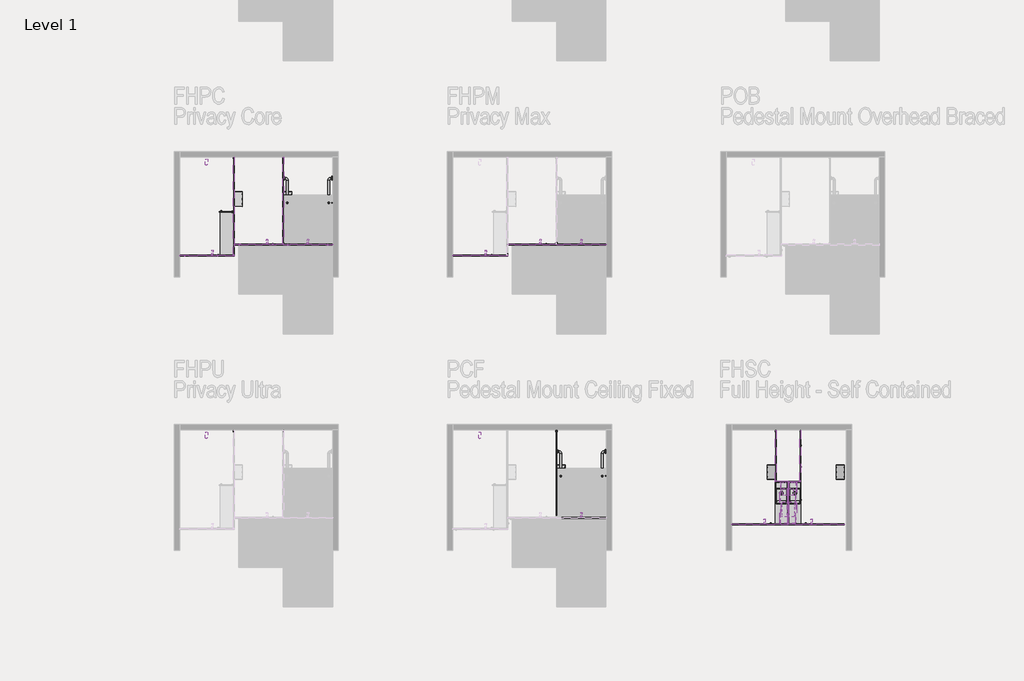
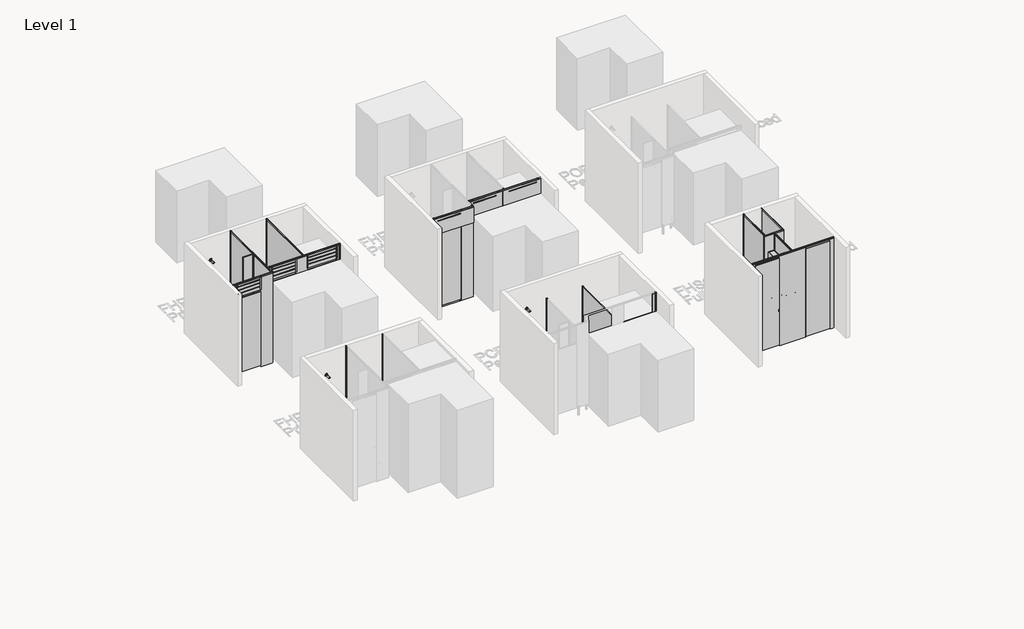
# One storey, part 2 of 21: 108 furniture elements, 13 proxies, 5 flow terminals.
"""IFC4 building model written with IfcOpenShell, lengths in millimetres."""

from ifc_helpers import new_model, si_unit, origin, place, context, project, spatial, transform, mapped, element, save
from components import grab_rail_angled_generic_variable_c761e824, grab_rail_angled_generic_variable_3e2c0b31, standard_bbde8fbd, standard_f0378506, standard_a875b074, standard_1bd56ca6, toilet_paper_dispenser_single_generic_jumbo_roll_standard_5525cc7b, shower_outlet_generic_cylinder_fixed_standard_5790de0d, standard_62b3b199, furniture_50x50x3_ea_30474b0d, single_jumbo_roll_84fdac57, single_jumbo_roll_e7ba397d, standard_9f86a58c, standard_8b35f988, standard_eb0c6a54, standard_7c3ea897, standard_e2e215f3, standard_50133f41, standard_54add324, standard_539b4371, standard_8cc50bd6, standard_2b3127c3, standard_fdf829a3, standard_bae3c756, standard_4d361739, standard_103004a1, standard_78c5e98c, standard_35fc4c4e, standard_598e1934, standard_5f91ae4e, standard_cc6c492e, standard_4e694d97, standard_1b8acc66, standard_bca626b4, standard_b2058483, standard_ade325fc, standard_339cfff9, standard_af441d0e, standard_b7de49b0, standard_4f091022, standard_1f074c20, standard_59bfe1c4, standard_31cafe8a, standard_3d746f33, standard_4055153e, standard_ba3eb68e, standard_246fb630, standard_5e636450, standard_dc7732f7, standard_ce56a993, standard_a54649d3, standard_8169fa8b, standard_a09735d1, standard_67804c96, standard_4ddd5521

model = new_model("IFC4")

# Units and contexts
model_context = context("Model", 3, world=origin())
ifc_project = project(units=[si_unit("LENGTHUNIT", "METRE", prefix="MILLI")], contexts=[model_context])

# Site, building, storey
site = spatial("IfcSite", under=ifc_project)
building = spatial("IfcBuilding", under=site)
storey = spatial("IfcBuildingStorey", under=building, Name="Level 1", Elevation=0.0)

# Proxies
placement = place(None, origin())
grab_rail_angled_generic_variable_shape = grab_rail_angled_generic_variable_c761e824(model_context)
element("IfcBuildingElementProxy", 1, Name="Grab Rail-Angled-Generic-Variable : Ambulant-32Ø 450+450@90°", ObjectType="Grab Rail-Angled-Generic-Variable : Ambulant-32Ø 450+450@90°", at=placement, inside=storey, context=model_context, shape_type="MappedRepresentation", body=[
    mapped(grab_rail_angled_generic_variable_shape, transform((-4235.416652, -561.5342317, 784.0), x_axis=(0.0, 1.0, 0.0), y_axis=(0.0, 0.0, 1.0), z_axis=(1.0, 0.0, 0.0))),
])
element("IfcBuildingElementProxy", 2, Name="Grab Rail-Angled-Generic-Variable : Ambulant-32Ø 450+450@90°", ObjectType="Grab Rail-Angled-Generic-Variable : Ambulant-32Ø 450+450@90°", at=placement, inside=storey, context=model_context, shape_type="MappedRepresentation", body=[
    mapped(grab_rail_angled_generic_variable_shape, transform((-9235.416652, 4438.4657683, 784.0), x_axis=(0.0, 1.0, 0.0), y_axis=(0.0, 0.0, 1.0), z_axis=(1.0, 0.0, 0.0))),
])
grab_rail_angled_generic_variable_2_shape = grab_rail_angled_generic_variable_3e2c0b31(model_context)
element("IfcBuildingElementProxy", 3, Name="Grab Rail-Angled-Generic-Variable : Ambulant-32Ø 450+450@90°", ObjectType="Grab Rail-Angled-Generic-Variable : Ambulant-32Ø 450+450@90°", at=placement, inside=storey, context=model_context, shape_type="MappedRepresentation", body=[
    mapped(grab_rail_angled_generic_variable_2_shape, transform((-3335.416652, -561.5342317, 784.0), x_axis=(0.0, 1.0, 0.0), y_axis=(0.0, 0.0, -1.0), z_axis=(-1.0, 0.0, 0.0))),
])
element("IfcBuildingElementProxy", 4, Name="Grab Rail-Angled-Generic-Variable : Ambulant-32Ø 450+450@90°", ObjectType="Grab Rail-Angled-Generic-Variable : Ambulant-32Ø 450+450@90°", at=placement, inside=storey, context=model_context, shape_type="MappedRepresentation", body=[
    mapped(grab_rail_angled_generic_variable_2_shape, transform((-8335.416652, 4438.4657683, 784.0), x_axis=(0.0, 1.0, 0.0), y_axis=(0.0, 0.0, -1.0), z_axis=(-1.0, 0.0, 0.0))),
])
standard_shape = standard_bbde8fbd(model_context)
element("IfcBuildingElementProxy", 5, Name="X_Paper Towel Dispenser-Wall-Duracube-Mirror Hosted : Standard", ObjectType="X_Paper Towel Dispenser-Wall-Duracube-Mirror Hosted : Standard", at=placement, inside=storey, context=model_context, shape_type="MappedRepresentation", body=[
    mapped(standard_shape, transform((-27.916652, -1395.0342317, 1410.0), x_axis=(0.0, -1.0, 0.0), y_axis=(0.0, 0.0, 1.0), z_axis=(-1.0, 0.0, 0.0))),
])
standard_2_shape = standard_f0378506(model_context)
element("IfcBuildingElementProxy", 6, Name="X_Soap Dispenser-Wall-Duracube-Automatic BMSD : Standard", ObjectType="X_Soap Dispenser-Wall-Duracube-Automatic BMSD : Standard", at=placement, inside=storey, context=model_context, shape_type="MappedRepresentation", body=[
    mapped(standard_2_shape, transform((-27.916652, -1076.5342317, 1402.0), x_axis=(0.0, -1.0, 0.0), y_axis=(0.0, 0.0, 1.0), z_axis=(-1.0, 0.0, 0.0))),
])
standard_3_shape = standard_a875b074(model_context)
element("IfcBuildingElementProxy", 7, Name="X_Soap Dispenser-Wall-Duracube-Automatic BMSD : Standard", ObjectType="X_Soap Dispenser-Wall-Duracube-Automatic BMSD : Standard", at=placement, inside=storey, context=model_context, shape_type="MappedRepresentation", body=[
    mapped(standard_3_shape, transform((17.083348, -1076.5342317, 1402.0), x_axis=(0.0, -1.0, 0.0), y_axis=(0.0, 0.0, -1.0), z_axis=(1.0, 0.0, 0.0))),
])
standard_4_shape = standard_1bd56ca6(model_context)
element("IfcBuildingElementProxy", 8, Name="X_Paper Towel Dispenser-Wall-Duracube-Mirror Hosted : Standard", ObjectType="X_Paper Towel Dispenser-Wall-Duracube-Mirror Hosted : Standard", at=placement, inside=storey, context=model_context, shape_type="MappedRepresentation", body=[
    mapped(standard_4_shape, transform((17.083348, -1395.0342317, 1410.0), x_axis=(0.0, -1.0, 0.0), y_axis=(0.0, 0.0, -1.0), z_axis=(1.0, 0.0, 0.0))),
])
toilet_paper_dispenser_single_generic_jumbo_roll_standard_shape = toilet_paper_dispenser_single_generic_jumbo_roll_standard_5525cc7b(model_context)
element("IfcBuildingElementProxy", 9, Name="Toilet Paper Dispenser-Single-Generic-Jumbo Roll : Standard", ObjectType="Toilet Paper Dispenser-Single-Generic-Jumbo Roll : Standard", at=placement, inside=storey, context=model_context, shape_type="MappedRepresentation", body=[
    mapped(toilet_paper_dispenser_single_generic_jumbo_roll_standard_shape, transform((-4235.416652, -715.5342317, 561.5), x_axis=(0.0, 1.0000000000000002, 0.0), y_axis=(0.0, 0.0, 1.0), z_axis=(1.0000000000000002, 0.0, 0.0))),
])
element("IfcBuildingElementProxy", 10, Name="Toilet Paper Dispenser-Single-Generic-Jumbo Roll : Standard", ObjectType="Toilet Paper Dispenser-Single-Generic-Jumbo Roll : Standard", at=placement, inside=storey, context=model_context, shape_type="MappedRepresentation", body=[
    mapped(toilet_paper_dispenser_single_generic_jumbo_roll_standard_shape, transform((-10135.416652, 4284.4657683, 561.5), x_axis=(0.0, 1.0000000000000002, 0.0), y_axis=(0.0, 0.0, 1.0), z_axis=(1.0000000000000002, 0.0, 0.0))),
])
element("IfcBuildingElementProxy", 11, Name="Toilet Paper Dispenser-Single-Generic-Jumbo Roll : Standard", ObjectType="Toilet Paper Dispenser-Single-Generic-Jumbo Roll : Standard", at=placement, inside=storey, context=model_context, shape_type="MappedRepresentation", body=[
    mapped(toilet_paper_dispenser_single_generic_jumbo_roll_standard_shape, transform((-9235.416652, 4284.4657683, 561.5), x_axis=(0.0, 1.0000000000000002, 0.0), y_axis=(0.0, 0.0, 1.0), z_axis=(1.0000000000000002, 0.0, 0.0))),
])
element("IfcBuildingElementProxy", 12, Name="Toilet Paper Dispenser-Single-Generic-Jumbo Roll : Standard", ObjectType="Toilet Paper Dispenser-Single-Generic-Jumbo Roll : Standard", at=placement, inside=storey, context=model_context, shape_type="MappedRepresentation", body=[
    mapped(toilet_paper_dispenser_single_generic_jumbo_roll_standard_shape, transform((-235.416652, -715.5342317, 561.5), x_axis=(0.0, -1.0, 0.0), y_axis=(0.0, 0.0, 1.0), z_axis=(-1.0, 0.0, 0.0))),
])
element("IfcBuildingElementProxy", 13, Name="Toilet Paper Dispenser-Single-Generic-Jumbo Roll : Standard", ObjectType="Toilet Paper Dispenser-Single-Generic-Jumbo Roll : Standard", at=placement, inside=storey, context=model_context, shape_type="MappedRepresentation", body=[
    mapped(toilet_paper_dispenser_single_generic_jumbo_roll_standard_shape, transform((1024.583348, -715.5342317, 561.5), x_axis=(0.0, -1.0, 0.0), y_axis=(0.0, 0.0, 1.0), z_axis=(-1.0, 0.0, 0.0))),
])

# Flow terminals
shower_outlet_generic_cylinder_fixed_standard_shape = shower_outlet_generic_cylinder_fixed_standard_5790de0d(model_context)
element("IfcFlowTerminal", 14, ObjectType="Shower-Outlet-Generic-Cylinder-Fixed : Standard", at=placement, inside=storey, context=model_context, shape_type="MappedRepresentation", body=[
    mapped(shower_outlet_generic_cylinder_fixed_standard_shape, transform((-5641.916652, 54.4657683, 1800.0), x_axis=(1.0, 0.0, 0.0), y_axis=(0.0, 0.0, 1.0), z_axis=(0.0, -1.0, 0.0))),
])
element("IfcFlowTerminal", 15, ObjectType="Shower-Outlet-Generic-Cylinder-Fixed : Standard", at=placement, inside=storey, context=model_context, shape_type="MappedRepresentation", body=[
    mapped(shower_outlet_generic_cylinder_fixed_standard_shape, transform((-10641.916652, 5054.4657683, 1800.0), x_axis=(1.0, 0.0, 0.0), y_axis=(0.0, 0.0, 1.0), z_axis=(0.0, -1.0, 0.0))),
])
element("IfcFlowTerminal", 16, ObjectType="Shower-Outlet-Generic-Cylinder-Fixed : Standard", at=placement, inside=storey, context=model_context, shape_type="MappedRepresentation", body=[
    mapped(shower_outlet_generic_cylinder_fixed_standard_shape, transform((-10641.916652, 54.4657683, 1800.0), x_axis=(1.0, 0.0, 0.0), y_axis=(0.0, 0.0, 1.0), z_axis=(0.0, -1.0, 0.0))),
])
standard_5_shape = standard_62b3b199(model_context)
element("IfcFlowTerminal", 17, ObjectType="Basin-Above Counter-Duracube-Rectangular-Type 1 : Standard", at=placement, inside=storey, context=model_context, shape_type="MappedRepresentation", body=[
    mapped(standard_5_shape, transform((118.083348, -1101.0342317, 725.0), x_axis=(1.0, 0.0, 0.0), y_axis=(0.0, 1.0, 0.0), z_axis=(0.0, 0.0, 1.0))),
])
element("IfcFlowTerminal", 18, ObjectType="Basin-Above Counter-Duracube-Rectangular-Type 1 : Standard", at=placement, inside=storey, context=model_context, shape_type="MappedRepresentation", body=[
    mapped(standard_5_shape, transform((-128.916652, -1101.0342317, 725.0), x_axis=(1.0, 0.0, 0.0), y_axis=(0.0, 1.0, 0.0), z_axis=(0.0, 0.0, 1.0))),
])

# Furniture
furniture_50x50x3_ea_shape = furniture_50x50x3_ea_30474b0d(model_context)
element("IfcFurniture", 19, ObjectType="X_Partition-Angle-Duracube-Shower Seat : 50x50x3 EA", at=placement, inside=storey, context=model_context, shape_type="MappedRepresentation", body=[
    mapped(furniture_50x50x3_ea_shape, transform((-10148.416652, 3991.4657683, 462.0), x_axis=(0.0, -1.0, 0.0), y_axis=(0.0, 0.0, 1.0), z_axis=(-1.0, 0.0, 0.0))),
])
element("IfcFurniture", 20, ObjectType="X_Partition-Angle-Duracube-Shower Seat : 50x50x3 EA", at=placement, inside=storey, context=model_context, shape_type="MappedRepresentation", body=[
    mapped(furniture_50x50x3_ea_shape, transform((-10148.416652, 3304.4657683, 462.0), x_axis=(0.0, -1.0, 0.0), y_axis=(0.0, 0.0, 1.0), z_axis=(-1.0, 0.0, 0.0))),
])
element("IfcFurniture", 21, ObjectType="X_Partition-Angle-Duracube-Shower Seat : 50x50x3 EA", at=placement, inside=storey, context=model_context, shape_type="MappedRepresentation", body=[
    mapped(furniture_50x50x3_ea_shape, transform((-5148.416652, 3991.4657683, 462.0), x_axis=(0.0, -1.0, 0.0), y_axis=(0.0, 0.0, 1.0), z_axis=(-1.0, 0.0, 0.0))),
])
element("IfcFurniture", 22, ObjectType="X_Partition-Angle-Duracube-Shower Seat : 50x50x3 EA", at=placement, inside=storey, context=model_context, shape_type="MappedRepresentation", body=[
    mapped(furniture_50x50x3_ea_shape, transform((-5148.416652, 3304.4657683, 462.0), x_axis=(0.0, -1.0, 0.0), y_axis=(0.0, 0.0, 1.0), z_axis=(-1.0, 0.0, 0.0))),
])
element("IfcFurniture", 23, ObjectType="X_Partition-Angle-Duracube-Shower Seat : 50x50x3 EA", at=placement, inside=storey, context=model_context, shape_type="MappedRepresentation", body=[
    mapped(furniture_50x50x3_ea_shape, transform((-10148.416652, 3647.9657683, 462.0), x_axis=(0.0, -1.0, 0.0), y_axis=(0.0, 0.0, 1.0), z_axis=(-1.0, 0.0, 0.0))),
])
element("IfcFurniture", 24, ObjectType="X_Partition-Angle-Duracube-Shower Seat : 50x50x3 EA", at=placement, inside=storey, context=model_context, shape_type="MappedRepresentation", body=[
    mapped(furniture_50x50x3_ea_shape, transform((-10363.416652, 4041.4657683, 462.0), x_axis=(1.0, 0.0, 0.0), y_axis=(0.0, 0.0, 1.0), z_axis=(0.0, -1.0, 0.0))),
])
element("IfcFurniture", 25, ObjectType="X_Partition-Angle-Duracube-Shower Seat : 50x50x3 EA", at=placement, inside=storey, context=model_context, shape_type="MappedRepresentation", body=[
    mapped(furniture_50x50x3_ea_shape, transform((-10363.416652, 3279.4657683, 487.0), x_axis=(1.0, 0.0, 0.0), y_axis=(0.0, -1.0, 0.0), z_axis=(0.0, 0.0, -1.0))),
])
element("IfcFurniture", 26, ObjectType="X_Partition-Angle-Duracube-Shower Seat : 50x50x3 EA", at=placement, inside=storey, context=model_context, shape_type="MappedRepresentation", body=[
    mapped(furniture_50x50x3_ea_shape, transform((-5148.416652, 3647.9657683, 462.0), x_axis=(0.0, -1.0, 0.0), y_axis=(0.0, 0.0, 1.0), z_axis=(-1.0, 0.0, 0.0))),
])
element("IfcFurniture", 27, ObjectType="X_Partition-Angle-Duracube-Shower Seat : 50x50x3 EA", at=placement, inside=storey, context=model_context, shape_type="MappedRepresentation", body=[
    mapped(furniture_50x50x3_ea_shape, transform((-5363.416652, 3279.4657683, 487.0), x_axis=(1.0, 0.0, 0.0), y_axis=(0.0, -1.0, 0.0), z_axis=(0.0, 0.0, -1.0))),
])
element("IfcFurniture", 28, ObjectType="X_Partition-Angle-Duracube-Shower Seat : 50x50x3 EA", at=placement, inside=storey, context=model_context, shape_type="MappedRepresentation", body=[
    mapped(furniture_50x50x3_ea_shape, transform((1.083348, -1561.5342317, 687.0), x_axis=(0.0, 1.0, 0.0), y_axis=(0.0, 0.0, 1.0), z_axis=(1.0, 0.0, 0.0))),
])
element("IfcFurniture", 29, ObjectType="X_Partition-Angle-Duracube-Shower Seat : 50x50x3 EA", at=placement, inside=storey, context=model_context, shape_type="MappedRepresentation", body=[
    mapped(furniture_50x50x3_ea_shape, transform((-11.916652, -1561.5342317, 687.0), x_axis=(0.0, -1.0, 0.0), y_axis=(0.0, 0.0, 1.0), z_axis=(-1.0, 0.0, 0.0))),
])
single_jumbo_roll_shape = single_jumbo_roll_84fdac57(model_context)
element("IfcFurniture", 30, ObjectType="X_Partition-Compact Laminate-Duracube-Rectangular : Single Jumbo Roll", at=placement, inside=storey, context=model_context, shape_type="MappedRepresentation", body=[
    mapped(single_jumbo_roll_shape, transform((-4248.416652, -790.2345582, 0.0), x_axis=(0.0, 1.0000000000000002, 0.0), y_axis=(-1.0000000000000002, 0.0, 0.0), z_axis=(0.0, 0.0, 1.0))),
])
single_jumbo_roll_2_shape = single_jumbo_roll_e7ba397d(model_context)
element("IfcFurniture", 31, ObjectType="X_Partition-Compact Laminate-Duracube-Rectangular : Single Jumbo Roll", at=placement, inside=storey, context=model_context, shape_type="MappedRepresentation", body=[
    mapped(single_jumbo_roll_2_shape, transform((-9248.416652, 4209.7654418, 0.0), x_axis=(0.0, 1.0000000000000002, 0.0), y_axis=(-1.0000000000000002, 0.0, 0.0), z_axis=(0.0, 0.0, 1.0))),
])
standard_6_shape = standard_9f86a58c(model_context)
element("IfcFurniture", 32, ObjectType="X_Partition-Compact Laminate-Duracube-Rectangular : Standard", at=placement, inside=storey, context=model_context, shape_type="MappedRepresentation", body=[
    mapped(standard_6_shape, transform((-10129.6169784, 3454.4657683, 0.0), x_axis=(1.0, 0.0, 0.0), y_axis=(0.0, 1.0, 0.0), z_axis=(0.0, 0.0, 1.0))),
])
element("IfcFurniture", 33, ObjectType="X_Partition-Compact Laminate-Duracube-Rectangular : Standard", at=placement, inside=storey, context=model_context, shape_type="MappedRepresentation", body=[
    mapped(standard_6_shape, transform((-11129.6169784, 3254.4657683, 0.0), x_axis=(1.0, 0.0, 0.0), y_axis=(0.0, 1.0, 0.0), z_axis=(0.0, 0.0, 1.0))),
])
standard_7_shape = standard_8b35f988(model_context)
element("IfcFurniture", 34, ObjectType="X_Partition-Compact Laminate-Duracube-Rectangular : Standard", at=placement, inside=storey, context=model_context, shape_type="MappedRepresentation", body=[
    mapped(standard_7_shape, transform((-10148.416652, 4109.7654418, 0.0), x_axis=(0.0, 1.0000000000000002, 0.0), y_axis=(-1.0000000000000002, 0.0, 0.0), z_axis=(0.0, 0.0, 1.0))),
])
element("IfcFurniture", 35, ObjectType="X_Partition-Compact Laminate-Duracube-Rectangular : Standard", at=placement, inside=storey, context=model_context, shape_type="MappedRepresentation", body=[
    mapped(standard_6_shape, transform((-5129.6169784, 3454.4657683, 0.0), x_axis=(1.0, 0.0, 0.0), y_axis=(0.0, 1.0, 0.0), z_axis=(0.0, 0.0, 1.0))),
])
element("IfcFurniture", 36, ObjectType="X_Partition-Compact Laminate-Duracube-Rectangular : Standard", at=placement, inside=storey, context=model_context, shape_type="MappedRepresentation", body=[
    mapped(standard_6_shape, transform((-6129.6169784, 3254.4657683, 0.0), x_axis=(1.0, 0.0, 0.0), y_axis=(0.0, 1.0, 0.0), z_axis=(0.0, 0.0, 1.0))),
])
standard_8_shape = standard_eb0c6a54(model_context)
element("IfcFurniture", 37, ObjectType="X_Partition-Seal-Duracube-Door Bottom : Standard", at=placement, inside=storey, context=model_context, shape_type="MappedRepresentation", body=[
    mapped(standard_8_shape, transform((-5780.1169784, 3254.4657683, 0.0), x_axis=(1.0, 0.0, 0.0), y_axis=(0.0, 1.0, 0.0), z_axis=(0.0, 0.0, 1.0))),
])
element("IfcFurniture", 38, ObjectType="X_Partition-Seal-Duracube-Door Bottom : Standard", at=placement, inside=storey, context=model_context, shape_type="MappedRepresentation", body=[
    mapped(standard_8_shape, transform((-4780.1169784, 3454.4657683, 0.0), x_axis=(1.0, 0.0, 0.0), y_axis=(0.0, 1.0, 0.0), z_axis=(0.0, 0.0, 1.0))),
])
standard_9_shape = standard_7c3ea897(model_context)
element("IfcFurniture", 39, ObjectType="X_Partition-Channel-Duracube-End : Standard", at=placement, inside=storey, context=model_context, shape_type="MappedRepresentation", body=[
    mapped(standard_9_shape, transform((-3305.7163255, -1545.5342317, 0.0), x_axis=(-1.0000000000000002, 0.0, 0.0), y_axis=(0.0, -1.0000000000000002, 0.0), z_axis=(0.0, 0.0, 1.0))),
])
standard_10_shape = standard_e2e215f3(model_context)
element("IfcFurniture", 40, ObjectType="X_Partition-Compact Laminate-Duracube-Rectangular : Standard", at=placement, inside=storey, context=model_context, shape_type="MappedRepresentation", body=[
    mapped(standard_10_shape, transform((-3425.6169784, -1545.5342317, 0.0), x_axis=(1.0, 0.0, 0.0), y_axis=(0.0, 1.0, 0.0), z_axis=(0.0, 0.0, 1.0))),
])
standard_11_shape = standard_50133f41(model_context)
element("IfcFurniture", 41, ObjectType="X_Partition-Compact Laminate-Duracube-Rectangular : Standard", at=placement, inside=storey, context=model_context, shape_type="MappedRepresentation", body=[
    mapped(standard_11_shape, transform((-10327.1169784, 3254.4657683, 0.0), x_axis=(1.0, 0.0, 0.0), y_axis=(0.0, 1.0, 0.0), z_axis=(0.0, 0.0, 1.0))),
])
standard_12_shape = standard_54add324(model_context)
element("IfcFurniture", 42, ObjectType="X_Partition-Compact Laminate-Duracube-Rectangular : Standard", at=placement, inside=storey, context=model_context, shape_type="MappedRepresentation", body=[
    mapped(standard_12_shape, transform((-8425.6169784, 3454.4657683, 0.0), x_axis=(1.0, 0.0, 0.0), y_axis=(0.0, 1.0, 0.0), z_axis=(0.0, 0.0, 1.0))),
])
standard_13_shape = standard_539b4371(model_context)
element("IfcFurniture", 43, ObjectType="X_Partition-Compact Laminate-Duracube-Rectangular : Standard", at=placement, inside=storey, context=model_context, shape_type="MappedRepresentation", body=[
    mapped(standard_13_shape, transform((-9337.6169784, 3454.4657683, 0.0), x_axis=(1.0, 0.0, 0.0), y_axis=(0.0, 1.0, 0.0), z_axis=(0.0, 0.0, 1.0))),
])
element("IfcFurniture", 44, ObjectType="X_Partition-Compact Laminate-Duracube-Rectangular : Standard", at=placement, inside=storey, context=model_context, shape_type="MappedRepresentation", body=[
    mapped(standard_11_shape, transform((-5327.1169784, 3254.4657683, 0.0), x_axis=(1.0, 0.0, 0.0), y_axis=(0.0, 1.0, 0.0), z_axis=(0.0, 0.0, 1.0))),
])
element("IfcFurniture", 45, ObjectType="X_Partition-Compact Laminate-Duracube-Rectangular : Standard", at=placement, inside=storey, context=model_context, shape_type="MappedRepresentation", body=[
    mapped(standard_12_shape, transform((-3425.6169784, 3454.4657683, 0.0), x_axis=(1.0, 0.0, 0.0), y_axis=(0.0, 1.0, 0.0), z_axis=(0.0, 0.0, 1.0))),
])
element("IfcFurniture", 46, ObjectType="X_Partition-Compact Laminate-Duracube-Rectangular : Standard", at=placement, inside=storey, context=model_context, shape_type="MappedRepresentation", body=[
    mapped(standard_13_shape, transform((-4337.6169784, 3454.4657683, 0.0), x_axis=(1.0, 0.0, 0.0), y_axis=(0.0, 1.0, 0.0), z_axis=(0.0, 0.0, 1.0))),
])
standard_14_shape = standard_8cc50bd6(model_context)
element("IfcFurniture", 47, ObjectType="X_Partition-Seal-Duracube-Door Bottom : Standard", at=placement, inside=storey, context=model_context, shape_type="MappedRepresentation", body=[
    mapped(standard_14_shape, transform((-3832.6169784, 3454.4657683, 0.0), x_axis=(1.0, 0.0, 0.0), y_axis=(0.0, 1.0, 0.0), z_axis=(0.0, 0.0, 1.0))),
])
element("IfcFurniture", 48, ObjectType="X_Partition-Compact Laminate-Duracube-Rectangular : Standard", at=placement, inside=storey, context=model_context, shape_type="MappedRepresentation", body=[
    mapped(standard_6_shape, transform((-1029.6169784, -1662.5342317, 0.0), x_axis=(1.0, 0.0, 0.0), y_axis=(0.0, 1.0, 0.0), z_axis=(0.0, 0.0, 1.0))),
])
standard_15_shape = standard_2b3127c3(model_context)
element("IfcFurniture", 49, ObjectType="X_Partition-Channel-Duracube-Join : Standard", at=placement, inside=storey, context=model_context, shape_type="MappedRepresentation", body=[
    mapped(standard_15_shape, transform((-10082.6169784, 3454.4657683, -26.0), x_axis=(1.0, 0.0, 0.0), y_axis=(0.0, 1.0, 0.0), z_axis=(0.0, 0.0, 1.0))),
])
element("IfcFurniture", 50, ObjectType="X_Partition-Channel-Duracube-Join : Standard", at=placement, inside=storey, context=model_context, shape_type="MappedRepresentation", body=[
    mapped(standard_15_shape, transform((-9477.6169784, 3454.4657683, -26.0), x_axis=(1.0, 0.0, 0.0), y_axis=(0.0, 1.0, 0.0), z_axis=(0.0, 0.0, 1.0))),
])
element("IfcFurniture", 51, ObjectType="X_Partition-Channel-Duracube-Join : Standard", at=placement, inside=storey, context=model_context, shape_type="MappedRepresentation", body=[
    mapped(standard_15_shape, transform((-11082.6169784, 3254.4657683, -26.0), x_axis=(1.0, 0.0, 0.0), y_axis=(0.0, 1.0, 0.0), z_axis=(0.0, 0.0, 1.0))),
])
element("IfcFurniture", 52, ObjectType="X_Partition-Channel-Duracube-Join : Standard", at=placement, inside=storey, context=model_context, shape_type="MappedRepresentation", body=[
    mapped(standard_15_shape, transform((-10477.6169784, 3254.4657683, -26.0), x_axis=(1.0, 0.0, 0.0), y_axis=(0.0, 1.0, 0.0), z_axis=(0.0, 0.0, 1.0))),
])
element("IfcFurniture", 53, ObjectType="X_Partition-Channel-Duracube-Join : Standard", at=placement, inside=storey, context=model_context, shape_type="MappedRepresentation", body=[
    mapped(standard_15_shape, transform((-9197.6169784, 3454.4657683, -26.0), x_axis=(1.0, 0.0, 0.0), y_axis=(0.0, 1.0, 0.0), z_axis=(0.0, 0.0, 1.0))),
])
element("IfcFurniture", 54, ObjectType="X_Partition-Channel-Duracube-Join : Standard", at=placement, inside=storey, context=model_context, shape_type="MappedRepresentation", body=[
    mapped(standard_15_shape, transform((-8467.6169784, 3454.4657683, -26.0), x_axis=(1.0, 0.0, 0.0), y_axis=(0.0, 1.0, 0.0), z_axis=(0.0, 0.0, 1.0))),
])
standard_16_shape = standard_fdf829a3(model_context)
element("IfcFurniture", 55, ObjectType="X_Partition-Compact Laminate-Duracube-Door : Standard", at=placement, inside=storey, context=model_context, shape_type="MappedRepresentation", body=[
    mapped(standard_16_shape, transform((-3832.6169784, -1545.5342317, 0.0), x_axis=(1.0, 0.0, 0.0), y_axis=(0.0, 1.0, 0.0), z_axis=(0.0, 0.0, 1.0))),
])
standard_17_shape = standard_bae3c756(model_context)
element("IfcFurniture", 56, ObjectType="X_Partition-Compact Laminate-Duracube-Door : Standard", at=placement, inside=storey, context=model_context, shape_type="MappedRepresentation", body=[
    mapped(standard_17_shape, transform((-9780.1169784, 3454.4657683, 0.0), x_axis=(1.0, 0.0, 0.0), y_axis=(0.0, 1.0, 0.0), z_axis=(0.0, 0.0, 1.0))),
])
element("IfcFurniture", 57, ObjectType="X_Partition-Compact Laminate-Duracube-Door : Standard", at=placement, inside=storey, context=model_context, shape_type="MappedRepresentation", body=[
    mapped(standard_17_shape, transform((-10780.1169784, 3254.4657683, 0.0), x_axis=(1.0, 0.0, 0.0), y_axis=(0.0, 1.0, 0.0), z_axis=(0.0, 0.0, 1.0))),
])
standard_18_shape = standard_4d361739(model_context)
element("IfcFurniture", 58, ObjectType="X_Partition-Compact Laminate-Duracube-Door : Standard", at=placement, inside=storey, context=model_context, shape_type="MappedRepresentation", body=[
    mapped(standard_18_shape, transform((-8832.6169784, 3454.4657683, 0.0), x_axis=(1.0, 0.0, 0.0), y_axis=(0.0, 1.0, 0.0), z_axis=(0.0, 0.0, 1.0))),
])
standard_19_shape = standard_103004a1(model_context)
element("IfcFurniture", 59, ObjectType="X_Partition-Compact Laminate-Duracube-Door : Standard", at=placement, inside=storey, context=model_context, shape_type="MappedRepresentation", body=[
    mapped(standard_19_shape, transform((-680.1169784, -1662.5342317, 0.0), x_axis=(1.0, 0.0, 0.0), y_axis=(0.0, 1.0, 0.0), z_axis=(0.0, 0.0, 1.0))),
])
standard_20_shape = standard_78c5e98c(model_context)
element("IfcFurniture", 60, ObjectType="X_Partition-Compact Laminate-Duracube-Door : Standard", at=placement, inside=storey, context=model_context, shape_type="MappedRepresentation", body=[
    mapped(standard_20_shape, transform((-5780.1169784, 3254.4657683, 0.0), x_axis=(1.0, 0.0, 0.0), y_axis=(0.0, 1.0, 0.0), z_axis=(0.0, 0.0, 1.0))),
])
standard_21_shape = standard_35fc4c4e(model_context)
element("IfcFurniture", 61, ObjectType="X_Partition-Compact Laminate-Duracube-Door : Standard", at=placement, inside=storey, context=model_context, shape_type="MappedRepresentation", body=[
    mapped(standard_21_shape, transform((-4780.1169784, 3454.4657683, 0.0), x_axis=(1.0, 0.0, 0.0), y_axis=(0.0, 1.0, 0.0), z_axis=(0.0, 0.0, 1.0))),
])
standard_22_shape = standard_598e1934(model_context)
element("IfcFurniture", 62, ObjectType="X_Partition-Compact Laminate-Duracube-Door : Standard", at=placement, inside=storey, context=model_context, shape_type="MappedRepresentation", body=[
    mapped(standard_22_shape, transform((-3832.6169784, 3454.4657683, 0.0), x_axis=(1.0, 0.0, 0.0), y_axis=(0.0, 1.0, 0.0), z_axis=(0.0, 0.0, 1.0))),
])
standard_23_shape = standard_5f91ae4e(model_context)
element("IfcFurniture", 63, ObjectType="X_Partition-Compact Laminate-Duracube-Mirror Cabinet : Standard", at=placement, inside=storey, context=model_context, shape_type="MappedRepresentation", body=[
    mapped(standard_23_shape, transform((630.583348, -1228.8339053, 1200.0), x_axis=(0.0, -1.0, 0.0), y_axis=(1.0, 0.0, 0.0), z_axis=(0.0, 0.0, 1.0))),
])
standard_24_shape = standard_cc6c492e(model_context)
element("IfcFurniture", 64, ObjectType="X_Partition-Compact Laminate-Duracube-Cabinet Door : Standard", at=placement, inside=storey, context=model_context, shape_type="MappedRepresentation", body=[
    mapped(standard_24_shape, transform((-142.916652, -1228.8339053, 1200.0), x_axis=(0.0, -1.0, 0.0), y_axis=(1.0, 0.0, 0.0), z_axis=(0.0, 0.0, 1.0))),
])
standard_25_shape = standard_4e694d97(model_context)
element("IfcFurniture", 65, ObjectType="X_Partition-Compact Laminate-Duracube-Mirror Cabinet : Standard", at=placement, inside=storey, context=model_context, shape_type="MappedRepresentation", body=[
    mapped(standard_25_shape, transform((-641.416652, -1228.8339053, 1200.0), x_axis=(0.0, -1.0, 0.0), y_axis=(1.0, 0.0, 0.0), z_axis=(0.0, 0.0, 1.0))),
])
standard_26_shape = standard_1b8acc66(model_context)
element("IfcFurniture", 66, ObjectType="X_Partition-Compact Laminate-Duracube-Cabinet Door : Standard", at=placement, inside=storey, context=model_context, shape_type="MappedRepresentation", body=[
    mapped(standard_26_shape, transform((132.083348, -1228.8339053, 1200.0), x_axis=(0.0, -1.0, 0.0), y_axis=(1.0, 0.0, 0.0), z_axis=(0.0, 0.0, 1.0))),
])
standard_27_shape = standard_bca626b4(model_context)
element("IfcFurniture", 67, ObjectType="X_Partition-Compact Laminate-Duracube-Cabinet Door : Standard", at=placement, inside=storey, context=model_context, shape_type="MappedRepresentation", body=[
    mapped(standard_27_shape, transform((211.583348, -1042.3339053, 300.0), x_axis=(0.0, -1.0, 0.0), y_axis=(1.0, 0.0, 0.0), z_axis=(0.0, 0.0, 1.0))),
])
standard_28_shape = standard_b2058483(model_context)
element("IfcFurniture", 68, ObjectType="X_Locker-Duracube-Panel : Standard", at=placement, inside=storey, context=model_context, shape_type="MappedRepresentation", body=[
    mapped(standard_28_shape, transform((159.5336745, -1293.5342317, 300.0), x_axis=(-1.0, 0.0, 0.0), y_axis=(0.0, -1.0, 0.0), z_axis=(0.0, 0.0, 1.0))),
])
element("IfcFurniture", 69, ObjectType="X_Locker-Duracube-Panel : Standard", at=placement, inside=storey, context=model_context, shape_type="MappedRepresentation", body=[
    mapped(standard_28_shape, transform((-80.9663255, -1293.5342317, 300.0), x_axis=(-1.0, 0.0, 0.0), y_axis=(0.0, -1.0, 0.0), z_axis=(0.0, 0.0, 1.0))),
])
standard_29_shape = standard_ade325fc(model_context)
element("IfcFurniture", 70, ObjectType="X_Partition-Compact Laminate-Duracube-Cabinet Door : Standard", at=placement, inside=storey, context=model_context, shape_type="MappedRepresentation", body=[
    mapped(standard_29_shape, transform((-222.416652, -1042.3339053, 300.0), x_axis=(0.0, -1.0, 0.0), y_axis=(1.0, 0.0, 0.0), z_axis=(0.0, 0.0, 1.0))),
])
standard_30_shape = standard_339cfff9(model_context)
element("IfcFurniture", 71, ObjectType="X_Partition-Compact Laminate-Duracube-Basin Rectangular : Standard", at=placement, inside=storey, context=model_context, shape_type="MappedRepresentation", body=[
    mapped(standard_30_shape, transform((-11.916652, -848.7345582, 0.0), x_axis=(0.0, 1.0, 0.0), y_axis=(-1.0, 0.0, 0.0), z_axis=(0.0, 0.0, 1.0))),
])
standard_31_shape = standard_af441d0e(model_context)
element("IfcFurniture", 72, ObjectType="X_Partition-Channel-Duracube-Ceiling : Standard", at=placement, inside=storey, context=model_context, shape_type="MappedRepresentation", body=[
    mapped(standard_31_shape, transform((-13.916652, -1322.7345582, 2374.0), x_axis=(0.0, 1.0, 0.0), y_axis=(-1.0, 0.0, 0.0), z_axis=(0.0, 0.0, 1.0))),
])
standard_32_shape = standard_b7de49b0(model_context)
element("IfcFurniture", 73, ObjectType="X_Partition-Channel-Duracube-Ceiling : Standard", at=placement, inside=storey, context=model_context, shape_type="MappedRepresentation", body=[
    mapped(standard_32_shape, transform((209.583348, -457.7345582, 2374.0), x_axis=(0.0, 1.0, 0.0), y_axis=(-1.0, 0.0, 0.0), z_axis=(0.0, 0.0, 1.0))),
])
element("IfcFurniture", 74, ObjectType="X_Partition-Channel-Duracube-Ceiling : Standard", at=placement, inside=storey, context=model_context, shape_type="MappedRepresentation", body=[
    mapped(standard_32_shape, transform((-237.416652, -457.7345582, 2374.0), x_axis=(0.0, 1.0, 0.0), y_axis=(-1.0, 0.0, 0.0), z_axis=(0.0, 0.0, 1.0))),
])
standard_33_shape = standard_4f091022(model_context)
element("IfcFurniture", 75, ObjectType="X_Partition-Channel-Duracube-Ceiling : Standard", at=placement, inside=storey, context=model_context, shape_type="MappedRepresentation", body=[
    mapped(standard_33_shape, transform((39.2836745, -895.5342317, 2374.0), x_axis=(-1.0, 0.0, 0.0), y_axis=(0.0, -1.0, 0.0), z_axis=(0.0, 0.0, 1.0))),
])
standard_34_shape = standard_1f074c20(model_context)
element("IfcFurniture", 76, ObjectType="X_Partition-Compact Laminate-Duracube-Rectangular : Standard", at=placement, inside=storey, context=model_context, shape_type="MappedRepresentation", body=[
    mapped(standard_34_shape, transform((-50.1169784, -1662.5342317, 0.0), x_axis=(1.0, 0.0, 0.0), y_axis=(0.0, 1.0, 0.0), z_axis=(0.0, 0.0, 1.0))),
])
element("IfcFurniture", 77, ObjectType="X_Partition-Compact Laminate-Duracube-Door : Standard", at=placement, inside=storey, context=model_context, shape_type="MappedRepresentation", body=[
    mapped(standard_19_shape, transform((579.8830216, -1662.5342317, 0.0), x_axis=(1.0, 0.0, 0.0), y_axis=(0.0, 1.0, 0.0), z_axis=(0.0, 0.0, 1.0))),
])
element("IfcFurniture", 78, ObjectType="X_Partition-Compact Laminate-Duracube-Rectangular : Standard", at=placement, inside=storey, context=model_context, shape_type="MappedRepresentation", body=[
    mapped(standard_6_shape, transform((929.3830216, -1662.5342317, 0.0), x_axis=(1.0, 0.0, 0.0), y_axis=(0.0, 1.0, 0.0), z_axis=(0.0, 0.0, 1.0))),
])
standard_35_shape = standard_59bfe1c4(model_context)
element("IfcFurniture", 79, ObjectType="X_Partition-Channel-Duracube-Ceiling : Standard", at=placement, inside=storey, context=model_context, shape_type="MappedRepresentation", body=[
    mapped(standard_35_shape, transform((-50.1169784, -1660.5342317, 2374.0), x_axis=(1.0, 0.0, 0.0), y_axis=(0.0, 1.0, 0.0), z_axis=(0.0, 0.0, 1.0))),
])
standard_36_shape = standard_31cafe8a(model_context)
element("IfcFurniture", 80, ObjectType="X_Partition-Robe Hook-Duracube-Door Stop : Standard", at=placement, inside=storey, context=model_context, shape_type="MappedRepresentation", body=[
    mapped(standard_36_shape, transform((-9535.416652, 3454.4657683, 1700.0), x_axis=(-1.0, 0.0, 0.0), y_axis=(0.0, 0.0, 1.0), z_axis=(0.0, 1.0, 0.0))),
])
element("IfcFurniture", 81, ObjectType="X_Partition-Robe Hook-Duracube-Door Stop : Standard", at=placement, inside=storey, context=model_context, shape_type="MappedRepresentation", body=[
    mapped(standard_36_shape, transform((-10535.416652, 3254.4657683, 1700.0), x_axis=(-1.0, 0.0, 0.0), y_axis=(0.0, 0.0, 1.0), z_axis=(0.0, 1.0, 0.0))),
])
element("IfcFurniture", 82, ObjectType="X_Partition-Robe Hook-Duracube-Door Stop : Standard", at=placement, inside=storey, context=model_context, shape_type="MappedRepresentation", body=[
    mapped(standard_36_shape, transform((-4535.416652, 3454.4657683, 1700.0), x_axis=(-1.0, 0.0, 0.0), y_axis=(0.0, 0.0, 1.0), z_axis=(0.0, 1.0, 0.0))),
])
element("IfcFurniture", 83, ObjectType="X_Partition-Robe Hook-Duracube-Door Stop : Standard", at=placement, inside=storey, context=model_context, shape_type="MappedRepresentation", body=[
    mapped(standard_36_shape, transform((-5535.416652, 3254.4657683, 1700.0), x_axis=(-1.0, 0.0, 0.0), y_axis=(0.0, 0.0, 1.0), z_axis=(0.0, 1.0, 0.0))),
])
element("IfcFurniture", 84, ObjectType="X_Partition-Robe Hook-Duracube-Door Stop : Standard", at=placement, inside=storey, context=model_context, shape_type="MappedRepresentation", body=[
    mapped(standard_36_shape, transform((-3787.916652, -1545.5342317, 1300.0), x_axis=(-1.0, 0.0, 0.0), y_axis=(0.0, 0.0, 1.0), z_axis=(0.0, 1.0, 0.0))),
])
element("IfcFurniture", 85, ObjectType="X_Partition-Robe Hook-Duracube-Door Stop : Standard", at=placement, inside=storey, context=model_context, shape_type="MappedRepresentation", body=[
    mapped(standard_36_shape, transform((-8787.916652, 3454.4657683, 1300.0), x_axis=(-1.0, 0.0, 0.0), y_axis=(0.0, 0.0, 1.0), z_axis=(0.0, 1.0, 0.0))),
])
element("IfcFurniture", 86, ObjectType="X_Partition-Robe Hook-Duracube-Door Stop : Standard", at=placement, inside=storey, context=model_context, shape_type="MappedRepresentation", body=[
    mapped(standard_36_shape, transform((-3787.916652, 3454.4657683, 1300.0), x_axis=(-1.0, 0.0, 0.0), y_axis=(0.0, 0.0, 1.0), z_axis=(0.0, 1.0, 0.0))),
])
element("IfcFurniture", 87, ObjectType="X_Partition-Robe Hook-Duracube-Door Stop : Standard", at=placement, inside=storey, context=model_context, shape_type="MappedRepresentation", body=[
    mapped(standard_36_shape, transform((-435.416652, -1662.5342317, 1700.0), x_axis=(-1.0, 0.0, 0.0), y_axis=(0.0, 0.0, 1.0), z_axis=(0.0, 1.0, 0.0))),
])
element("IfcFurniture", 88, ObjectType="X_Partition-Robe Hook-Duracube-Door Stop : Standard", at=placement, inside=storey, context=model_context, shape_type="MappedRepresentation", body=[
    mapped(standard_36_shape, transform((424.583348, -1662.5342317, 1700.0), x_axis=(-1.0, 0.0, 0.0), y_axis=(0.0, 0.0, 1.0), z_axis=(0.0, 1.0, 0.0))),
])
standard_37_shape = standard_3d746f33(model_context)
element("IfcFurniture", 89, ObjectType="X_Partition-Foot-Duracube-Assembly : Standard", at=placement, inside=storey, context=model_context, shape_type="MappedRepresentation", body=[
    mapped(standard_37_shape, transform((-3338.2163255, -1578.5342317, 0.0), x_axis=(-1.0000000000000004, 0.0, 0.0), y_axis=(0.0, -1.0000000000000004, 0.0), z_axis=(0.0, 0.0, 1.0))),
])
element("IfcFurniture", 90, ObjectType="X_Partition-Foot-Duracube-Assembly : Standard", at=placement, inside=storey, context=model_context, shape_type="MappedRepresentation", body=[
    mapped(standard_37_shape, transform((-10417.1169784, 4074.4657683, 0.0), x_axis=(1.0, 0.0, 0.0), y_axis=(0.0, 1.0, 0.0), z_axis=(0.0, 0.0, 1.0))),
])
standard_38_shape = standard_4055153e(model_context)
element("IfcFurniture", 91, ObjectType="X_Partition-Channel-Duracube-End : Standard", at=placement, inside=storey, context=model_context, shape_type="MappedRepresentation", body=[
    mapped(standard_38_shape, transform((-10118.7163255, 4041.4657683, 0.0), x_axis=(-1.0000000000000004, 0.0, 0.0), y_axis=(0.0, -1.0000000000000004, 0.0), z_axis=(0.0, 0.0, 1.0))),
])
standard_39_shape = standard_ba3eb68e(model_context)
element("IfcFurniture", 92, ObjectType="X_Partition-Channel-Duracube-End : Standard", at=placement, inside=storey, context=model_context, shape_type="MappedRepresentation", body=[
    mapped(standard_39_shape, transform((-5135.416652, 84.1660947, 0.0), x_axis=(0.0, -1.0000000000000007, 0.0), y_axis=(1.0000000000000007, 0.0, 0.0), z_axis=(0.0, 0.0, 1.0))),
])
element("IfcFurniture", 93, ObjectType="X_Partition-Channel-Duracube-End : Standard", at=placement, inside=storey, context=model_context, shape_type="MappedRepresentation", body=[
    mapped(standard_39_shape, transform((-4235.416652, 84.1660947, 0.0), x_axis=(0.0, -1.0000000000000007, 0.0), y_axis=(1.0000000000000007, 0.0, 0.0), z_axis=(0.0, 0.0, 1.0))),
])
standard_40_shape = standard_246fb630(model_context)
element("IfcFurniture", 94, ObjectType="X_Partition-Channel-Duracube-Ceiling : Standard", at=placement, inside=storey, context=model_context, shape_type="MappedRepresentation", body=[
    mapped(standard_40_shape, transform((-4280.1169784, 3456.4657683, 2374.0), x_axis=(1.0, 0.0, 0.0), y_axis=(0.0, 1.0, 0.0), z_axis=(0.0, 0.0, 1.0))),
])
element("IfcFurniture", 95, ObjectType="X_Partition-Channel-Duracube-Ceiling : Standard", at=placement, inside=storey, context=model_context, shape_type="MappedRepresentation", body=[
    mapped(standard_40_shape, transform((-9280.1169784, 3456.4657683, 2374.0), x_axis=(1.0, 0.0, 0.0), y_axis=(0.0, 1.0, 0.0), z_axis=(0.0, 0.0, 1.0))),
])
standard_41_shape = standard_5e636450(model_context)
element("IfcFurniture", 96, ObjectType="X_Partition-Channel-Duracube-Ceiling : Standard", at=placement, inside=storey, context=model_context, shape_type="MappedRepresentation", body=[
    mapped(standard_41_shape, transform((-5679.1169784, 3256.4657683, 2374.0), x_axis=(1.0, 0.0, 0.0), y_axis=(0.0, 1.0, 0.0), z_axis=(0.0, 0.0, 1.0))),
])
element("IfcFurniture", 97, ObjectType="X_Partition-Channel-Duracube-Ceiling : Standard", at=placement, inside=storey, context=model_context, shape_type="MappedRepresentation", body=[
    mapped(standard_41_shape, transform((-10679.1169784, 3256.4657683, 2374.0), x_axis=(1.0, 0.0, 0.0), y_axis=(0.0, 1.0, 0.0), z_axis=(0.0, 0.0, 1.0))),
])
standard_42_shape = standard_dc7732f7(model_context)
element("IfcFurniture", 98, ObjectType="X_Partition-Channel-Duracube-End : Standard", at=placement, inside=storey, context=model_context, shape_type="MappedRepresentation", body=[
    mapped(standard_42_shape, transform((-10135.416652, 5084.1660947, 0.0), x_axis=(0.0, -1.0000000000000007, 0.0), y_axis=(1.0000000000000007, 0.0, 0.0), z_axis=(0.0, 0.0, 1.0))),
])
element("IfcFurniture", 99, ObjectType="X_Partition-Channel-Duracube-End : Standard", at=placement, inside=storey, context=model_context, shape_type="MappedRepresentation", body=[
    mapped(standard_42_shape, transform((-10135.416652, 84.1660947, 0.0), x_axis=(0.0, -1.0000000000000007, 0.0), y_axis=(1.0000000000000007, 0.0, 0.0), z_axis=(0.0, 0.0, 1.0))),
])
element("IfcFurniture", 100, ObjectType="X_Partition-Channel-Duracube-End : Standard", at=placement, inside=storey, context=model_context, shape_type="MappedRepresentation", body=[
    mapped(standard_42_shape, transform((-11165.1169784, 3254.4657683, 0.0), x_axis=(1.0000000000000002, 0.0, 0.0), y_axis=(0.0, 1.0000000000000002, 0.0), z_axis=(0.0, 0.0, 1.0))),
])
element("IfcFurniture", 101, ObjectType="X_Partition-Channel-Duracube-End : Standard", at=placement, inside=storey, context=model_context, shape_type="MappedRepresentation", body=[
    mapped(standard_42_shape, transform((-10165.1169784, 3454.4657683, 0.0), x_axis=(1.0000000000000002, 0.0, 0.0), y_axis=(0.0, 1.0000000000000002, 0.0), z_axis=(0.0, 0.0, 1.0))),
])
element("IfcFurniture", 102, ObjectType="X_Partition-Channel-Duracube-End : Standard", at=placement, inside=storey, context=model_context, shape_type="MappedRepresentation", body=[
    mapped(standard_42_shape, transform((-9235.416652, 5084.1660947, 0.0), x_axis=(0.0, -1.0000000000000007, 0.0), y_axis=(1.0000000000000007, 0.0, 0.0), z_axis=(0.0, 0.0, 1.0))),
])
element("IfcFurniture", 103, ObjectType="X_Partition-Channel-Duracube-End : Standard", at=placement, inside=storey, context=model_context, shape_type="MappedRepresentation", body=[
    mapped(standard_42_shape, transform((-9248.416652, 3424.7654418, 0.0), x_axis=(0.0, 1.0000000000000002, 0.0), y_axis=(-1.0000000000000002, 0.0, 0.0), z_axis=(0.0, 0.0, 1.0))),
])
element("IfcFurniture", 104, ObjectType="X_Partition-Channel-Duracube-End : Standard", at=placement, inside=storey, context=model_context, shape_type="MappedRepresentation", body=[
    mapped(standard_42_shape, transform((-6165.1169784, 3254.4657683, 0.0), x_axis=(1.0000000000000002, 0.0, 0.0), y_axis=(0.0, 1.0000000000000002, 0.0), z_axis=(0.0, 0.0, 1.0))),
])
element("IfcFurniture", 105, ObjectType="X_Partition-Channel-Duracube-End : Standard", at=placement, inside=storey, context=model_context, shape_type="MappedRepresentation", body=[
    mapped(standard_42_shape, transform((-5165.1169784, 3454.4657683, 0.0), x_axis=(1.0000000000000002, 0.0, 0.0), y_axis=(0.0, 1.0000000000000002, 0.0), z_axis=(0.0, 0.0, 1.0))),
])
element("IfcFurniture", 106, ObjectType="X_Partition-Channel-Duracube-End : Standard", at=placement, inside=storey, context=model_context, shape_type="MappedRepresentation", body=[
    mapped(standard_42_shape, transform((-4248.416652, 3424.7654418, 0.0), x_axis=(0.0, 1.0000000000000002, 0.0), y_axis=(-1.0000000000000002, 0.0, 0.0), z_axis=(0.0, 0.0, 1.0))),
])
element("IfcFurniture", 107, ObjectType="X_Partition-Channel-Duracube-End : Standard", at=placement, inside=storey, context=model_context, shape_type="MappedRepresentation", body=[
    mapped(standard_42_shape, transform((-9235.416652, 84.1660947, 0.0), x_axis=(0.0, -1.0000000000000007, 0.0), y_axis=(1.0000000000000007, 0.0, 0.0), z_axis=(0.0, 0.0, 1.0))),
])
element("IfcFurniture", 108, ObjectType="X_Partition-Channel-Duracube-End : Standard", at=placement, inside=storey, context=model_context, shape_type="MappedRepresentation", body=[
    mapped(standard_42_shape, transform((1.083348, -863.8339053, 0.0), x_axis=(0.0, -1.0, 0.0), y_axis=(1.0, 0.0, 0.0), z_axis=(0.0, 0.0, 1.0))),
])
element("IfcFurniture", 109, ObjectType="X_Partition-Channel-Duracube-End : Standard", at=placement, inside=storey, context=model_context, shape_type="MappedRepresentation", body=[
    mapped(standard_42_shape, transform((-235.416652, -910.2345582, 0.0), x_axis=(0.0, 1.0, 0.0), y_axis=(-1.0, 0.0, 0.0), z_axis=(0.0, 0.0, 1.0))),
])
element("IfcFurniture", 110, ObjectType="X_Partition-Channel-Duracube-End : Standard", at=placement, inside=storey, context=model_context, shape_type="MappedRepresentation", body=[
    mapped(standard_42_shape, transform((211.583348, -910.2345582, 0.0), x_axis=(0.0, 1.0, 0.0), y_axis=(-1.0, 0.0, 0.0), z_axis=(0.0, 0.0, 1.0))),
])
element("IfcFurniture", 111, ObjectType="X_Partition-Channel-Duracube-End : Standard", at=placement, inside=storey, context=model_context, shape_type="MappedRepresentation", body=[
    mapped(standard_42_shape, transform((-222.416652, 84.1660947, 0.0), x_axis=(0.0, -1.0, 0.0), y_axis=(1.0, 0.0, 0.0), z_axis=(0.0, 0.0, 1.0))),
])
element("IfcFurniture", 112, ObjectType="X_Partition-Channel-Duracube-End : Standard", at=placement, inside=storey, context=model_context, shape_type="MappedRepresentation", body=[
    mapped(standard_42_shape, transform((-11.916652, -1692.2345582, 0.0), x_axis=(0.0, 1.0, 0.0), y_axis=(-1.0, 0.0, 0.0), z_axis=(0.0, 0.0, 1.0))),
])
standard_43_shape = standard_ce56a993(model_context)
element("IfcFurniture", 113, ObjectType="X_Partition-Channel-Duracube-End : Standard", at=placement, inside=storey, context=model_context, shape_type="MappedRepresentation", body=[
    mapped(standard_43_shape, transform((-8305.7163255, 3454.4657683, 0.0), x_axis=(-1.0000000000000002, 0.0, 0.0), y_axis=(0.0, -1.0000000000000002, 0.0), z_axis=(0.0, 0.0, 1.0))),
])
standard_44_shape = standard_a54649d3(model_context)
element("IfcFurniture", 114, ObjectType="X_Partition-Channel-Duracube-Ceiling : Standard", at=placement, inside=storey, context=model_context, shape_type="MappedRepresentation", body=[
    mapped(standard_44_shape, transform((-10150.416652, 4109.7654418, 2374.0), x_axis=(0.0, 1.0000000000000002, 0.0), y_axis=(-1.0000000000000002, 0.0, 0.0), z_axis=(0.0, 0.0, 1.0))),
])
standard_45_shape = standard_8169fa8b(model_context)
element("IfcFurniture", 115, ObjectType="X_Partition-Channel-Duracube-Corner : Standard", at=placement, inside=storey, context=model_context, shape_type="MappedRepresentation", body=[
    mapped(standard_45_shape, transform((-10110.4663255, 3284.4657683, 0.0), x_axis=(-1.0, 0.0, 0.0), y_axis=(0.0, -1.0, 0.0), z_axis=(0.0, 0.0, 1.0))),
])
element("IfcFurniture", 116, ObjectType="X_Partition-Channel-Duracube-Corner : Standard", at=placement, inside=storey, context=model_context, shape_type="MappedRepresentation", body=[
    mapped(standard_45_shape, transform((-5110.4663255, 3284.4657683, 0.0), x_axis=(-1.0, 0.0, 0.0), y_axis=(0.0, -1.0, 0.0), z_axis=(0.0, 0.0, 1.0))),
])
standard_46_shape = standard_a09735d1(model_context)
element("IfcFurniture", 117, ObjectType="X_Partition-Compact Laminate-Duracube-Shower Seat & Division : Standard", at=placement, inside=storey, context=model_context, shape_type="MappedRepresentation", body=[
    mapped(standard_46_shape, transform((-10327.1169784, 4054.4657683, 0.0), x_axis=(1.0, 0.0, 0.0), y_axis=(0.0, 1.0, 0.0), z_axis=(0.0, 0.0, 1.0))),
])
standard_47_shape = standard_67804c96(model_context)
element("IfcFurniture", 118, ObjectType="X_Partition-Channel-Duracube-Ceiling : Standard", at=placement, inside=storey, context=model_context, shape_type="MappedRepresentation", body=[
    mapped(standard_47_shape, transform((-9250.416652, 4209.7654418, 2374.0), x_axis=(0.0, 1.0000000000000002, 0.0), y_axis=(-1.0000000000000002, 0.0, 0.0), z_axis=(0.0, 0.0, 1.0))),
])
standard_48_shape = standard_4ddd5521(model_context)
element("IfcFurniture", 119, ObjectType="X_Partition-Bumper-Duracube-Concealed Fix : Standard", at=placement, inside=storey, context=model_context, shape_type="MappedRepresentation", body=[
    mapped(standard_48_shape, transform((-9445.916652, 3454.4657683, 920.0), x_axis=(-1.0, 0.0, 0.0), y_axis=(0.0, 0.0, 1.0), z_axis=(0.0, 1.0, 0.0))),
])
element("IfcFurniture", 120, ObjectType="X_Partition-Bumper-Duracube-Concealed Fix : Standard", at=placement, inside=storey, context=model_context, shape_type="MappedRepresentation", body=[
    mapped(standard_48_shape, transform((-10445.916652, 3254.4657683, 920.0), x_axis=(-1.0, 0.0, 0.0), y_axis=(0.0, 0.0, 1.0), z_axis=(0.0, 1.0, 0.0))),
])
element("IfcFurniture", 121, ObjectType="X_Partition-Bumper-Duracube-Concealed Fix : Standard", at=placement, inside=storey, context=model_context, shape_type="MappedRepresentation", body=[
    mapped(standard_48_shape, transform((-4445.916652, 3454.4657683, 920.0), x_axis=(-1.0, 0.0, 0.0), y_axis=(0.0, 0.0, 1.0), z_axis=(0.0, 1.0, 0.0))),
])
element("IfcFurniture", 122, ObjectType="X_Partition-Bumper-Duracube-Concealed Fix : Standard", at=placement, inside=storey, context=model_context, shape_type="MappedRepresentation", body=[
    mapped(standard_48_shape, transform((-5445.916652, 3254.4657683, 920.0), x_axis=(-1.0, 0.0, 0.0), y_axis=(0.0, 0.0, 1.0), z_axis=(0.0, 1.0, 0.0))),
])
element("IfcFurniture", 123, ObjectType="X_Partition-Bumper-Duracube-Concealed Fix : Standard", at=placement, inside=storey, context=model_context, shape_type="MappedRepresentation", body=[
    mapped(standard_48_shape, transform((-9139.916652, 3441.4657683, 920.0), x_axis=(1.0, 0.0, 0.0), y_axis=(0.0, 0.0, 1.0), z_axis=(0.0, -1.0, 0.0))),
])
element("IfcFurniture", 124, ObjectType="X_Partition-Bumper-Duracube-Concealed Fix : Standard", at=placement, inside=storey, context=model_context, shape_type="MappedRepresentation", body=[
    mapped(standard_48_shape, transform((-4139.916652, 3441.4657683, 920.0), x_axis=(1.0, 0.0, 0.0), y_axis=(0.0, 0.0, 1.0), z_axis=(0.0, -1.0, 0.0))),
])
element("IfcFurniture", 125, ObjectType="X_Partition-Bumper-Duracube-Concealed Fix : Standard", at=placement, inside=storey, context=model_context, shape_type="MappedRepresentation", body=[
    mapped(standard_48_shape, transform((-345.916652, -1662.5342317, 920.0), x_axis=(-1.0, 0.0, 0.0), y_axis=(0.0, 0.0, 1.0), z_axis=(0.0, 1.0, 0.0))),
])
element("IfcFurniture", 126, ObjectType="X_Partition-Bumper-Duracube-Concealed Fix : Standard", at=placement, inside=storey, context=model_context, shape_type="MappedRepresentation", body=[
    mapped(standard_48_shape, transform((335.083348, -1662.5342317, 920.0), x_axis=(1.0, 0.0, 0.0), y_axis=(0.0, 0.0, -1.0), z_axis=(0.0, 1.0, 0.0))),
])

save(model, "model.ifc")
